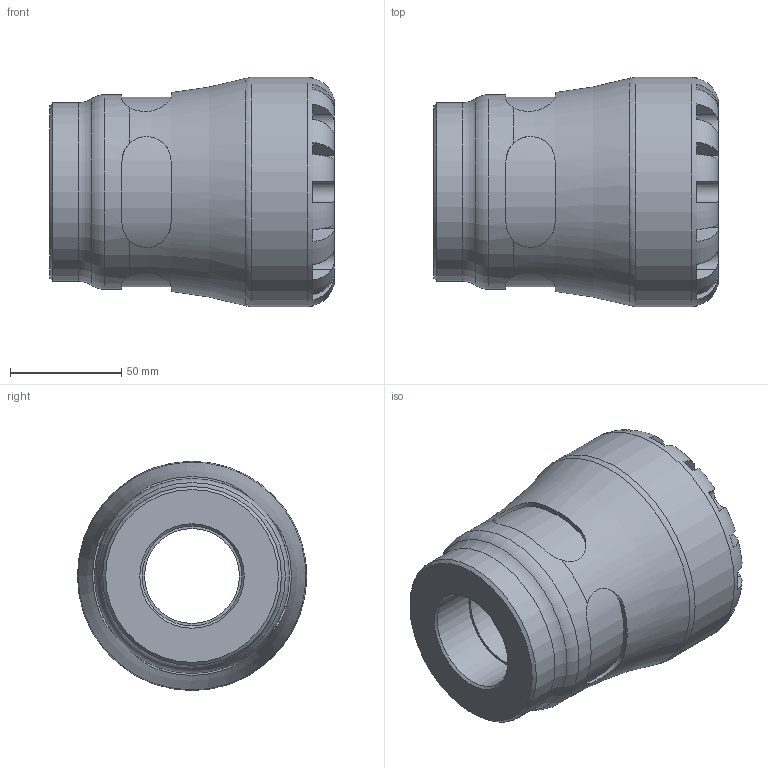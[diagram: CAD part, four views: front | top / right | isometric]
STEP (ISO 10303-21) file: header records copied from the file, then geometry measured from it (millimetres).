
FILE_DESCRIPTION(/* description */ ('PLASSON FEMALE INTEGRAL BRASS THREAD 63X1.1/2" SERIES 1'),/* implementation_level */ '2;1');
FILE_NAME(/* name */ 'C:\Dropbox\KIMPROJECTS-Inventor\99-16-3568-Processing\1073\107300063015_197300063015.ipt.stp',/* time_stamp */ '2017-01-22T11:35:50+02:00',/* author */ ('KIM'),/* organization */ (''),/* preprocessor_version */ 'ST-DEVELOPER v15.6',/* originating_system */ 'Autodesk Inventor 2015',/* authorisation */ '');
FILE_SCHEMA (('AUTOMOTIVE_DESIGN { 1 0 10303 214 3 1 1 }'));
Length unit declared in the file: millimetre
Products named in the file (1): 107300063015_197300063015
Bounding box: 128 x 103 x 103 mm (x, y, z)
Volume: 511298.9 mm3; surface area: 73329.7 mm2
Topology: 1 solids, 1 shells, 104 faces, 265 edges, 166 vertices
Faces by surface type: plane 61, cylinder 35, torus 5, cone 3
Full cylindrical faces by diameter (mm): 42.603 x1, 44.845 x1, 52.5 x1, 63 x1, 80.34 x1, 87.55 x1, 103 x1
Entity records: 3900 total; most frequent: CARTESIAN_POINT 1513, ORIENTED_EDGE 492, DIRECTION 478, EDGE_CURVE 246, AXIS2_PLACEMENT_3D 199, VERTEX_POINT 162, EDGE_LOOP 124, FACE_OUTER_BOUND 104
